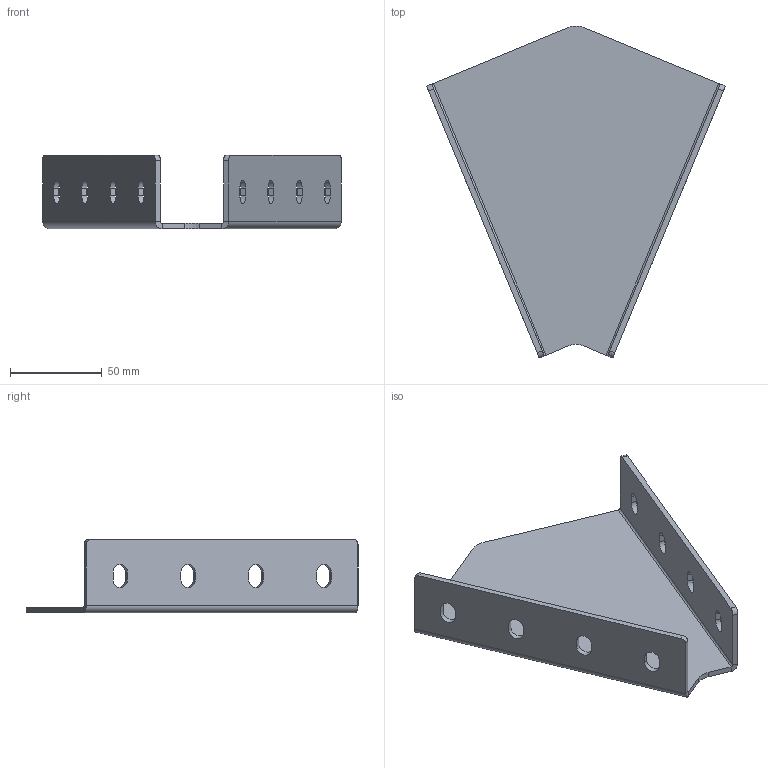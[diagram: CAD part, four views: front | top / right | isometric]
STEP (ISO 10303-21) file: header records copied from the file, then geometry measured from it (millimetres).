
FILE_DESCRIPTION (( 'STEP AP214' ), '1' );
FILE_NAME ('4016045.STEP', '2018-03-09T05:31:48', ( '' ), ( '' ), 'SwSTEP 2.0', 'SolidWorks 2014', '' );
FILE_SCHEMA (( 'AUTOMOTIVE_DESIGN' ));
Length unit declared in the file: millimetre
Products named in the file (2): 4016045
Bounding box: 162.46 x 180.61 x 40 mm (x, y, z)
Volume: 84882.4 mm3; surface area: 59451.7 mm2
Topology: 1 solids, 1 shells, 62 faces, 164 edges, 104 vertices
Faces by surface type: plane 36, cylinder 26
Entity records: 1993 total; most frequent: DIRECTION 344, CARTESIAN_POINT 332, ORIENTED_EDGE 328, EDGE_CURVE 164, AXIS2_PLACEMENT_3D 116, LINE 112, VECTOR 112, VERTEX_POINT 104
